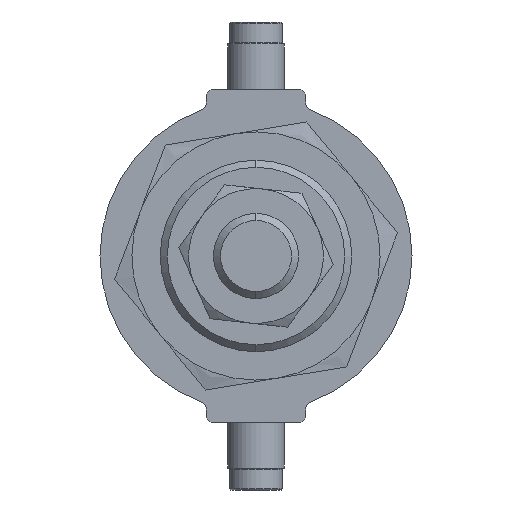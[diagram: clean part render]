
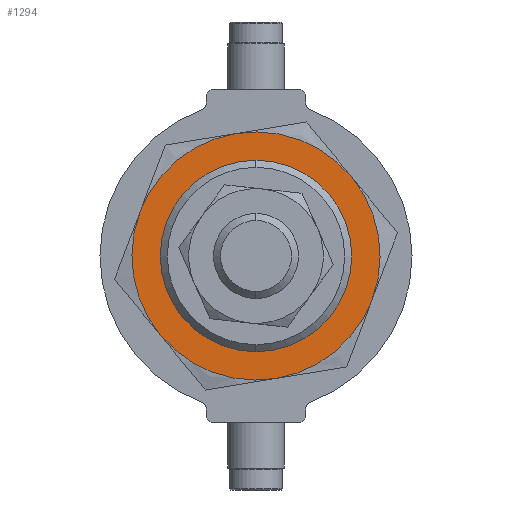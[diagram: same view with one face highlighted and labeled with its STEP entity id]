
A CAD part, left-side view. The second image highlights one B-rep face of the part: STEP entity #1294.
In plain terms, the highlighted planar face has unit normal (-1, 0, 0) as drawn and (0, 0, -1) by its records, which use the part's own axes.
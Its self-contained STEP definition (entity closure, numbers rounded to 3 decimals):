
#45 = CARTESIAN_POINT ( 'NONE',  ( 0., 0., -1.5 ) ) ;
#62 = DIRECTION ( 'NONE',  ( 1., 0., 0. ) ) ;
#134 = CARTESIAN_POINT ( 'NONE',  ( 0., 0., -1.5 ) ) ;
#162 = DIRECTION ( 'NONE',  ( 0., 0., 1. ) ) ;
#167 = DIRECTION ( 'NONE',  ( 1., 0., 0. ) ) ;
#293 = AXIS2_PLACEMENT_3D ( 'NONE', #1100, #162, #1582 ) ;
#348 = FACE_OUTER_BOUND ( 'NONE', #5490, .T. ) ;
#373 = CARTESIAN_POINT ( 'NONE',  ( -12.5, 0., -1.5 ) ) ;
#429 = EDGE_CURVE ( 'NONE', #3765, #5848, #2763, .T. ) ;
#452 = EDGE_CURVE ( 'NONE', #4088, #4610, #2141, .T. ) ;
#453 = CIRCLE ( 'NONE', #2720, 17.5 ) ;
#472 = DIRECTION ( 'NONE',  ( 1., 0., 0. ) ) ;
#729 = EDGE_LOOP ( 'NONE', ( #4953, #3187 ) ) ;
#738 = ORIENTED_EDGE ( 'NONE', *, *, #5285, .F. ) ;
#784 = ORIENTED_EDGE ( 'NONE', *, *, #2277, .F. ) ;
#923 = PLANE ( 'NONE',  #293 ) ;
#951 = CARTESIAN_POINT ( 'NONE',  ( 0., 0., -1.5 ) ) ;
#1100 = CARTESIAN_POINT ( 'NONE',  ( 0., 0., -1.5 ) ) ;
#1102 = AXIS2_PLACEMENT_3D ( 'NONE', #1678, #5796, #62 ) ;
#1179 = ORIENTED_EDGE ( 'NONE', *, *, #1687, .F. ) ;
#1255 = CARTESIAN_POINT ( 'NONE',  ( 17.5, 0., -1.5 ) ) ;
#1280 = DIRECTION ( 'NONE',  ( 0., 0., 1. ) ) ;
#1294 = ADVANCED_FACE ( 'NONE', ( #2889, #348 ), #923, .F. ) ;
#1369 = DIRECTION ( 'NONE',  ( 0., 0., 1. ) ) ;
#1500 = VERTEX_POINT ( 'NONE', #2128 ) ;
#1530 = CARTESIAN_POINT ( 'NONE',  ( 8.75, 15.155, -1.5 ) ) ;
#1582 = DIRECTION ( 'NONE',  ( 1., 0., 0. ) ) ;
#1617 = DIRECTION ( 'NONE',  ( 0., 0., 1. ) ) ;
#1678 = CARTESIAN_POINT ( 'NONE',  ( 0., 0., -1.5 ) ) ;
#1687 = EDGE_CURVE ( 'NONE', #4610, #3135, #3649, .T. ) ;
#1762 = DIRECTION ( 'NONE',  ( 0., 0., 1. ) ) ;
#1860 = EDGE_CURVE ( 'NONE', #5848, #3765, #3092, .T. ) ;
#1888 = CARTESIAN_POINT ( 'NONE',  ( -8.75, -15.155, -1.5 ) ) ;
#2046 = CIRCLE ( 'NONE', #2303, 17.5 ) ;
#2092 = CARTESIAN_POINT ( 'NONE',  ( 12.5, 0., -1.5 ) ) ;
#2128 = CARTESIAN_POINT ( 'NONE',  ( -8.75, 15.155, -1.5 ) ) ;
#2141 = CIRCLE ( 'NONE', #2918, 17.5 ) ;
#2196 = DIRECTION ( 'NONE',  ( 1., 0., 0. ) ) ;
#2277 = EDGE_CURVE ( 'NONE', #1500, #2824, #453, .T. ) ;
#2303 = AXIS2_PLACEMENT_3D ( 'NONE', #4575, #1617, #472 ) ;
#2364 = EDGE_CURVE ( 'NONE', #2824, #5257, #3458, .T. ) ;
#2581 = DIRECTION ( 'NONE',  ( 0., 0., 1. ) ) ;
#2720 = AXIS2_PLACEMENT_3D ( 'NONE', #4550, #1280, #167 ) ;
#2763 = CIRCLE ( 'NONE', #4645, 12.5 ) ;
#2824 = VERTEX_POINT ( 'NONE', #3701 ) ;
#2858 = AXIS2_PLACEMENT_3D ( 'NONE', #134, #2581, #5381 ) ;
#2889 = FACE_BOUND ( 'NONE', #729, .T. ) ;
#2918 = AXIS2_PLACEMENT_3D ( 'NONE', #45, #1762, #3666 ) ;
#3092 = CIRCLE ( 'NONE', #2858, 12.5 ) ;
#3104 = DIRECTION ( 'NONE',  ( 0., 0., 1. ) ) ;
#3135 = VERTEX_POINT ( 'NONE', #1530 ) ;
#3187 = ORIENTED_EDGE ( 'NONE', *, *, #1860, .T. ) ;
#3237 = CARTESIAN_POINT ( 'NONE',  ( 8.75, -15.155, -1.5 ) ) ;
#3250 = CARTESIAN_POINT ( 'NONE',  ( 0., 0., -1.5 ) ) ;
#3458 = CIRCLE ( 'NONE', #1102, 17.5 ) ;
#3649 = CIRCLE ( 'NONE', #4640, 17.5 ) ;
#3666 = DIRECTION ( 'NONE',  ( 1., 0., 0. ) ) ;
#3695 = EDGE_CURVE ( 'NONE', #5257, #4088, #4857, .T. ) ;
#3701 = CARTESIAN_POINT ( 'NONE',  ( -17.5, 0., -1.5 ) ) ;
#3765 = VERTEX_POINT ( 'NONE', #2092 ) ;
#3903 = DIRECTION ( 'NONE',  ( 1., 0., 0. ) ) ;
#3980 = ORIENTED_EDGE ( 'NONE', *, *, #3695, .F. ) ;
#4088 = VERTEX_POINT ( 'NONE', #3237 ) ;
#4123 = DIRECTION ( 'NONE',  ( 0., 0., 1. ) ) ;
#4223 = CARTESIAN_POINT ( 'NONE',  ( 0., 0., -1.5 ) ) ;
#4550 = CARTESIAN_POINT ( 'NONE',  ( 0., 0., -1.5 ) ) ;
#4575 = CARTESIAN_POINT ( 'NONE',  ( 0., 0., -1.5 ) ) ;
#4610 = VERTEX_POINT ( 'NONE', #1255 ) ;
#4640 = AXIS2_PLACEMENT_3D ( 'NONE', #4223, #4123, #2196 ) ;
#4645 = AXIS2_PLACEMENT_3D ( 'NONE', #3250, #1369, #4722 ) ;
#4722 = DIRECTION ( 'NONE',  ( 1., 0., 0. ) ) ;
#4857 = CIRCLE ( 'NONE', #4972, 17.5 ) ;
#4953 = ORIENTED_EDGE ( 'NONE', *, *, #429, .T. ) ;
#4972 = AXIS2_PLACEMENT_3D ( 'NONE', #951, #3104, #3903 ) ;
#5135 = ORIENTED_EDGE ( 'NONE', *, *, #452, .F. ) ;
#5257 = VERTEX_POINT ( 'NONE', #1888 ) ;
#5285 = EDGE_CURVE ( 'NONE', #3135, #1500, #2046, .T. ) ;
#5381 = DIRECTION ( 'NONE',  ( 1., 0., 0. ) ) ;
#5490 = EDGE_LOOP ( 'NONE', ( #1179, #5135, #3980, #5636, #784, #738 ) ) ;
#5636 = ORIENTED_EDGE ( 'NONE', *, *, #2364, .F. ) ;
#5796 = DIRECTION ( 'NONE',  ( 0., 0., 1. ) ) ;
#5848 = VERTEX_POINT ( 'NONE', #373 ) ;
